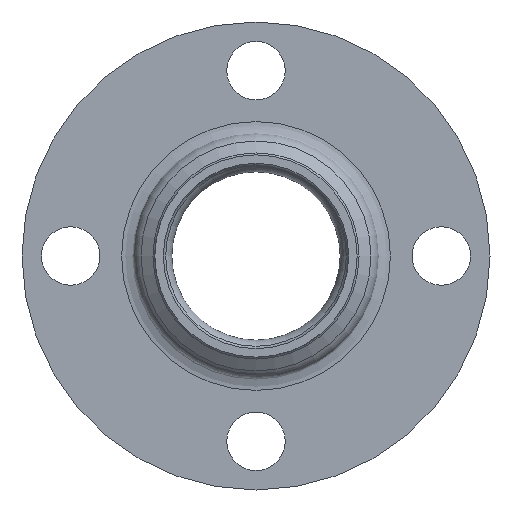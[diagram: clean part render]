
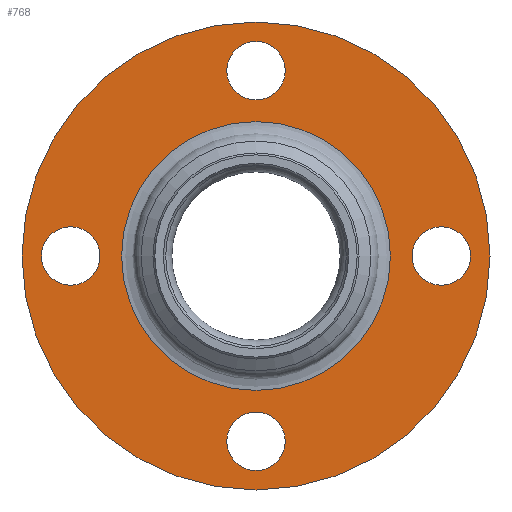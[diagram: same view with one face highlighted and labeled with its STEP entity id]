
A CAD part, left-side view. The second image highlights one B-rep face of the part: STEP entity #768.
In plain terms, the highlighted planar face has unit normal (-1, 0, 0).
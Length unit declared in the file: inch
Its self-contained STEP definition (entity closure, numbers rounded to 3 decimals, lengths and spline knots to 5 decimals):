
#49=FACE_BOUND('',#118,.T.);
#50=FACE_BOUND('',#119,.T.);
#51=FACE_BOUND('',#120,.T.);
#52=FACE_BOUND('',#121,.T.);
#53=FACE_BOUND('',#122,.T.);
#62=PLANE('',#839);
#84=FACE_OUTER_BOUND('',#117,.T.);
#117=EDGE_LOOP('',(#515,#516));
#118=EDGE_LOOP('',(#517));
#119=EDGE_LOOP('',(#518));
#120=EDGE_LOOP('',(#519));
#121=EDGE_LOOP('',(#520));
#122=EDGE_LOOP('',(#521,#522));
#192=CIRCLE('',#819,0.375);
#195=CIRCLE('',#823,0.375);
#198=CIRCLE('',#827,0.375);
#201=CIRCLE('',#831,0.375);
#204=CIRCLE('',#835,1.72336);
#205=CIRCLE('',#836,1.72336);
#208=CIRCLE('',#840,3.);
#209=CIRCLE('',#841,3.);
#290=VERTEX_POINT('',#1272);
#293=VERTEX_POINT('',#1280);
#296=VERTEX_POINT('',#1288);
#299=VERTEX_POINT('',#1296);
#302=VERTEX_POINT('',#1303);
#303=VERTEX_POINT('',#1305);
#305=VERTEX_POINT('',#1312);
#306=VERTEX_POINT('',#1313);
#377=EDGE_CURVE('',#290,#290,#192,.T.);
#381=EDGE_CURVE('',#293,#293,#195,.T.);
#385=EDGE_CURVE('',#296,#296,#198,.T.);
#389=EDGE_CURVE('',#299,#299,#201,.T.);
#392=EDGE_CURVE('',#302,#303,#204,.T.);
#393=EDGE_CURVE('',#303,#302,#205,.T.);
#396=EDGE_CURVE('',#305,#306,#208,.T.);
#397=EDGE_CURVE('',#306,#305,#209,.T.);
#515=ORIENTED_EDGE('',*,*,#396,.F.);
#516=ORIENTED_EDGE('',*,*,#397,.F.);
#517=ORIENTED_EDGE('',*,*,#377,.T.);
#518=ORIENTED_EDGE('',*,*,#381,.T.);
#519=ORIENTED_EDGE('',*,*,#385,.T.);
#520=ORIENTED_EDGE('',*,*,#389,.T.);
#521=ORIENTED_EDGE('',*,*,#393,.F.);
#522=ORIENTED_EDGE('',*,*,#392,.F.);
#768=ADVANCED_FACE('',(#84,#49,#50,#51,#52,#53),#62,.T.);
#819=AXIS2_PLACEMENT_3D('',#1274,#969,#970);
#823=AXIS2_PLACEMENT_3D('',#1282,#978,#979);
#827=AXIS2_PLACEMENT_3D('',#1290,#987,#988);
#831=AXIS2_PLACEMENT_3D('',#1298,#996,#997);
#835=AXIS2_PLACEMENT_3D('',#1306,#1004,#1005);
#836=AXIS2_PLACEMENT_3D('',#1307,#1006,#1007);
#839=AXIS2_PLACEMENT_3D('',#1311,#1012,#1013);
#840=AXIS2_PLACEMENT_3D('',#1314,#1014,#1015);
#841=AXIS2_PLACEMENT_3D('',#1315,#1016,#1017);
#969=DIRECTION('center_axis',(1.,0.,0.));
#970=DIRECTION('ref_axis',(0.,-1.,0.));
#978=DIRECTION('center_axis',(1.,0.,0.));
#979=DIRECTION('ref_axis',(0.,0.,1.));
#987=DIRECTION('center_axis',(1.,0.,0.));
#988=DIRECTION('ref_axis',(0.,1.,0.));
#996=DIRECTION('center_axis',(1.,0.,0.));
#997=DIRECTION('ref_axis',(0.,0.,-1.));
#1004=DIRECTION('center_axis',(-1.,0.,0.));
#1005=DIRECTION('ref_axis',(0.,-1.,0.));
#1006=DIRECTION('center_axis',(-1.,0.,0.));
#1007=DIRECTION('ref_axis',(0.,-1.,0.));
#1012=DIRECTION('center_axis',(-1.,0.,0.));
#1013=DIRECTION('ref_axis',(0.,0.,1.));
#1014=DIRECTION('center_axis',(1.,0.,0.));
#1015=DIRECTION('ref_axis',(0.,1.,0.));
#1016=DIRECTION('center_axis',(1.,0.,0.));
#1017=DIRECTION('ref_axis',(0.,1.,0.));
#1272=CARTESIAN_POINT('',(0.96,0.375,-2.375));
#1274=CARTESIAN_POINT('Origin',(0.96,0.,
-2.375));
#1280=CARTESIAN_POINT('',(0.96,-2.375,-0.375));
#1282=CARTESIAN_POINT('Origin',(0.96,-2.375,0.));
#1288=CARTESIAN_POINT('',(0.96,-0.375,2.375));
#1290=CARTESIAN_POINT('Origin',(0.96,0.,
2.375));
#1296=CARTESIAN_POINT('',(0.96,2.375,0.375));
#1298=CARTESIAN_POINT('Origin',(0.96,2.375,0.));
#1303=CARTESIAN_POINT('',(0.96,0.,1.72336));
#1305=CARTESIAN_POINT('',(0.96,1.72336,0.));
#1306=CARTESIAN_POINT('Origin',(0.96,0.,
0.));
#1307=CARTESIAN_POINT('Origin',(0.96,0.,
0.));
#1311=CARTESIAN_POINT('Origin',(0.96,2.265,0.));
#1312=CARTESIAN_POINT('',(0.96,3.,0.));
#1313=CARTESIAN_POINT('',(0.96,-3.,0.));
#1314=CARTESIAN_POINT('Origin',(0.96,0.,
0.));
#1315=CARTESIAN_POINT('Origin',(0.96,0.,
0.));
